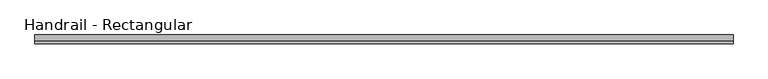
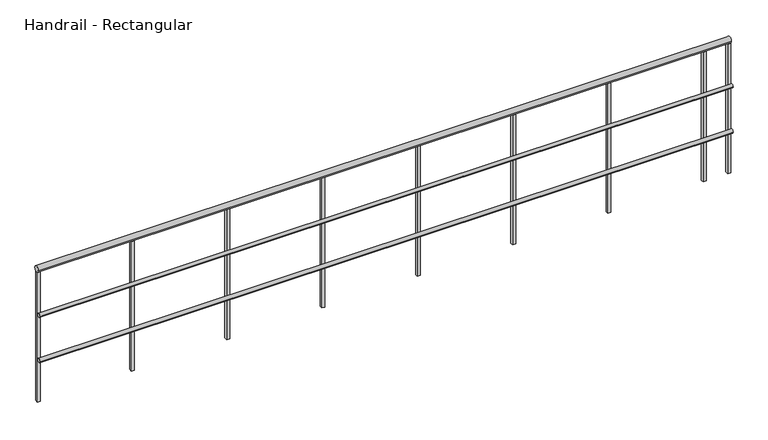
"""IFC4 building model written with IfcOpenShell, lengths in millimetres: railing geometry, Handrail - Rectangular."""

from ifc_helpers import new_model, si_unit, point, frame, frame_2d, origin, place, context, project, spatial, polyline, circle_curve, trimmed, segment, composite_curve, outline, extrude, source, transform, mapped, element, save


def handrail_rectangular_501bc58b(model_context):
    return source(origin(), model_context, "Body", "SweptSolid", [
        extrude(outline(composite_curve([segment(trimmed(circle_curve(frame_2d((-35578.5683133, 9740.9)), 12.7), [point((-35591.2683133, 9740.9))], [point((-35565.8683133, 9740.9))], False, "CARTESIAN"), True, "CONTINUOUS"), segment(trimmed(circle_curve(frame_2d((-35578.5683133, 9740.9)), 12.7), [point((-35565.8683133, 9740.9))], [point((-35591.2683133, 9740.9))], False, "CARTESIAN"), True, "CONTINUOUS")], self_intersect=False)), frame((-3862.3589563, 0.0, 0.0), z_axis=(1.0, 0.0, 0.0), x_axis=(0.0, 1.0, 0.0)), (0.0, 0.0, 1.0), 4432.3),
        extrude(outline(composite_curve([segment(trimmed(circle_curve(frame_2d((-35578.5683133, 9436.1)), 12.7), [point((-35591.2683133, 9436.1))], [point((-35565.8683133, 9436.1))], False, "CARTESIAN"), True, "CONTINUOUS"), segment(trimmed(circle_curve(frame_2d((-35578.5683133, 9436.1)), 12.7), [point((-35565.8683133, 9436.1))], [point((-35591.2683133, 9436.1))], False, "CARTESIAN"), True, "CONTINUOUS")], self_intersect=False)), frame((-3862.3589563, 0.0, 0.0), z_axis=(1.0, 0.0, 0.0), x_axis=(0.0, 1.0, 0.0)), (0.0, 0.0, 1.0), 4432.3),
        extrude(outline(composite_curve([segment(trimmed(circle_curve(frame_2d((-35553.1683133, 10039.35)), 19.05), [point((-35572.2183133, 10039.35))], [point((-35534.1183133, 10039.35))], False, "CARTESIAN"), True, "CONTINUOUS"), segment(trimmed(circle_curve(frame_2d((-35553.1683133, 10039.35)), 19.05), [point((-35534.1183133, 10039.35))], [point((-35572.2183133, 10039.35))], False, "CARTESIAN"), True, "CONTINUOUS")], self_intersect=False)), frame((-3862.3589563, 0.0, 0.0), z_axis=(1.0, 0.0, 0.0), x_axis=(0.0, 1.0, 0.0)), (0.0, 0.0, 1.0), 4432.3),
        extrude(outline(polyline([(395.3160437, -35543.6433133), (414.3660437, -35543.6433133), (414.3660437, -35562.6933133), (395.3160437, -35562.6933133), (395.3160437, -35543.6433133)])), frame((0.0, 0.0, 9144.0), z_axis=(0.0, 0.0, 1.0), x_axis=(1.0, 0.0, 0.0)), (0.0, 0.0, 1.0), 876.3),
        extrude(outline(polyline([(-214.2839563, -35543.6433133), (-195.2339563, -35543.6433133), (-195.2339563, -35562.6933133), (-214.2839563, -35562.6933133), (-214.2839563, -35543.6433133)])), frame((0.0, 0.0, 9144.0), z_axis=(0.0, 0.0, 1.0), x_axis=(1.0, 0.0, 0.0)), (0.0, 0.0, 1.0), 876.3),
        extrude(outline(polyline([(-823.8839563, -35543.6433133), (-804.8339563, -35543.6433133), (-804.8339563, -35562.6933133), (-823.8839563, -35562.6933133), (-823.8839563, -35543.6433133)])), frame((0.0, 0.0, 9144.0), z_axis=(0.0, 0.0, 1.0), x_axis=(1.0, 0.0, 0.0)), (0.0, 0.0, 1.0), 876.3),
        extrude(outline(polyline([(-1433.4839563, -35543.6433133), (-1414.4339563, -35543.6433133), (-1414.4339563, -35562.6933133), (-1433.4839563, -35562.6933133), (-1433.4839563, -35543.6433133)])), frame((0.0, 0.0, 9144.0), z_axis=(0.0, 0.0, 1.0), x_axis=(1.0, 0.0, 0.0)), (0.0, 0.0, 1.0), 876.3),
        extrude(outline(polyline([(-2043.0839563, -35543.6433133), (-2024.0339563, -35543.6433133), (-2024.0339563, -35562.6933133), (-2043.0839563, -35562.6933133), (-2043.0839563, -35543.6433133)])), frame((0.0, 0.0, 9144.0), z_axis=(0.0, 0.0, 1.0), x_axis=(1.0, 0.0, 0.0)), (0.0, 0.0, 1.0), 876.3),
        extrude(outline(polyline([(-2652.6839563, -35543.6433133), (-2633.6339563, -35543.6433133), (-2633.6339563, -35562.6933133), (-2652.6839563, -35562.6933133), (-2652.6839563, -35543.6433133)])), frame((0.0, 0.0, 9144.0), z_axis=(0.0, 0.0, 1.0), x_axis=(1.0, 0.0, 0.0)), (0.0, 0.0, 1.0), 876.3),
        extrude(outline(polyline([(-3262.2839563, -35543.6433133), (-3243.2339563, -35543.6433133), (-3243.2339563, -35562.6933133), (-3262.2839563, -35562.6933133), (-3262.2839563, -35543.6433133)])), frame((0.0, 0.0, 9144.0), z_axis=(0.0, 0.0, 1.0), x_axis=(1.0, 0.0, 0.0)), (0.0, 0.0, 1.0), 876.3),
        extrude(outline(polyline([(550.8910437, -35543.6433133), (569.9410437, -35543.6433133), (569.9410437, -35562.6933133), (550.8910437, -35562.6933133), (550.8910437, -35543.6433133)])), frame((0.0, 0.0, 9144.0), z_axis=(0.0, 0.0, 1.0), x_axis=(1.0, 0.0, 0.0)), (0.0, 0.0, 1.0), 876.3),
        extrude(outline(polyline([(-3862.3589563, -35543.6433133), (-3843.3089563, -35543.6433133), (-3843.3089563, -35562.6933133), (-3862.3589563, -35562.6933133), (-3862.3589563, -35543.6433133)])), frame((0.0, 0.0, 9144.0), z_axis=(0.0, 0.0, 1.0), x_axis=(1.0, 0.0, 0.0)), (0.0, 0.0, 1.0), 876.3),
    ])


if __name__ == "__main__":
    model = new_model("IFC4")
    model_context = context("Model", 3, world=origin())
    ifc_project = project(units=[si_unit("LENGTHUNIT", "METRE", prefix="MILLI")], contexts=[model_context])
    site = spatial("IfcSite", under=ifc_project)
    building = spatial("IfcBuilding", under=site)
    placement = place(None, origin())
    handrail_rectangular_shape = handrail_rectangular_501bc58b(model_context)
    element("IfcRailing", 1, ObjectType="Handrail - Rectangular", at=placement, inside=building, context=model_context, shape_type="MappedRepresentation", body=[
        mapped(handrail_rectangular_shape, transform((0.0, 0.0, 0.0), x_axis=(1.0, 0.0, 0.0), y_axis=(0.0, 1.0, 0.0), z_axis=(0.0, 0.0, 1.0))),
    ])
    save(model, "model.ifc")
